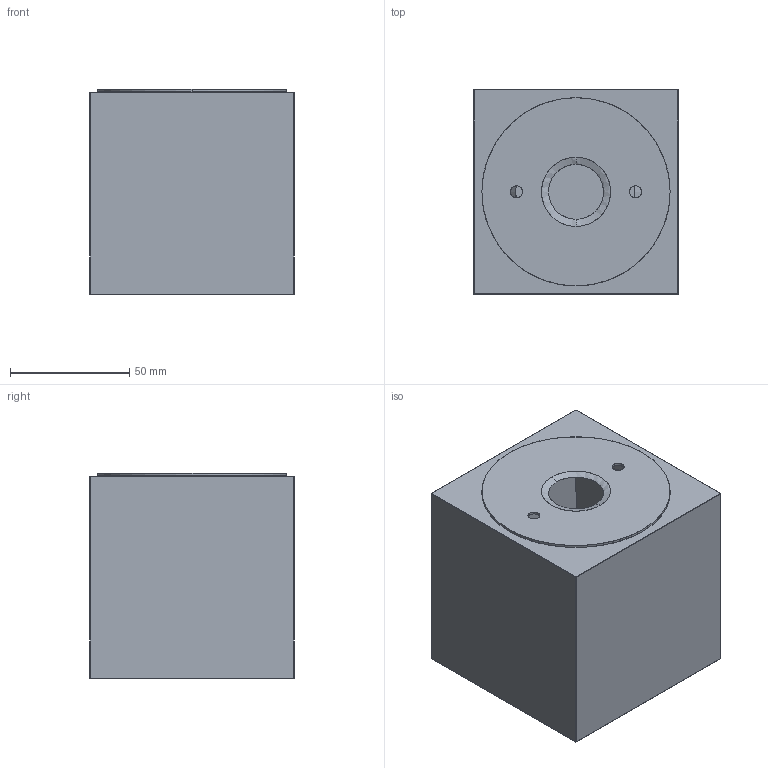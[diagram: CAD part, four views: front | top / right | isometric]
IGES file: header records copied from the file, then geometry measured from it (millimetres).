
Start section: SolidWorks IGES file using analytic representation for surfaces
Global section: file name: Y:\PRODUKT\Modele_3D_WWW\PARANA\PARANA PM\Z³o¿enie PARANA PM.IGS; native system: SolidWorks 2023; preprocessor: SolidWorks 2023; author: anna.bielnik; date: 240411.121604; units: millimetre
Bounding box: 86 x 86 x 86.12 mm (x, y, z)
Surface area: 100787.1 mm2 (no closed solid volume)
Topology: 0 solids, 0 shells, 67 faces, 1448 edges, 1440 vertices
Faces by surface type: revolution 44, bspline 23
